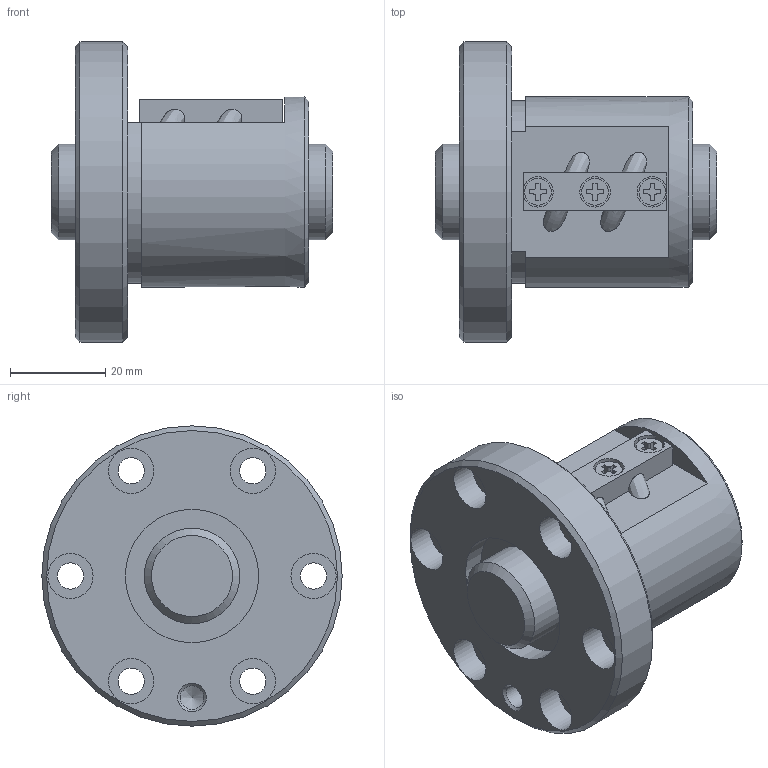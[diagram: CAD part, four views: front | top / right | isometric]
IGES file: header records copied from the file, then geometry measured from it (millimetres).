
Start section: Data from Parasolid IGES Translator 26.0.171, Copyright(c) 2006 Siemens PLM Software. All Rights Reserved.
Global section: file name: SBN2004V-5G0+59LC0(0000).igs; native system: By Siemens PLM Incorporated; preprocessor: XPlus GENERIC/IGES 26.0.171; author: Noname; organization: Noname; date: 20240528.102410; units: millimetre
Bounding box: 59 x 63 x 63 mm (x, y, z)
Surface area: 22138.9 mm2 (no closed solid volume)
Topology: 0 solids, 0 shells, 124 faces, 595 edges, 540 vertices
Faces by surface type: extrusion 69, revolution 55
